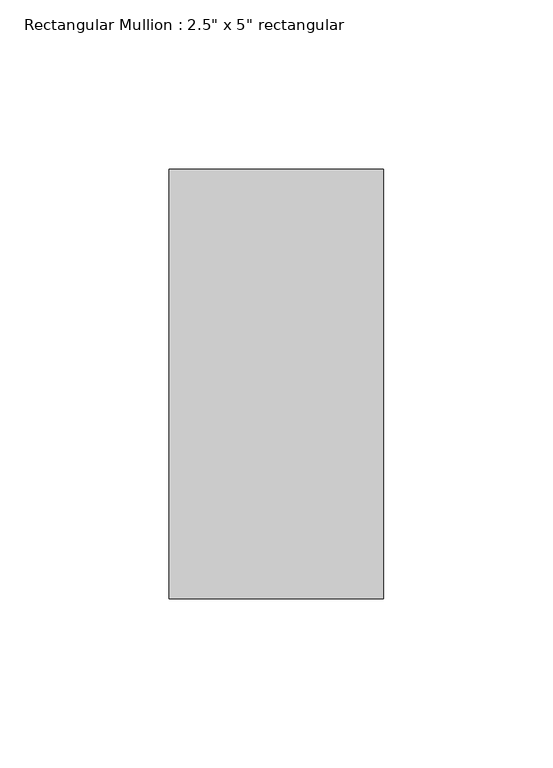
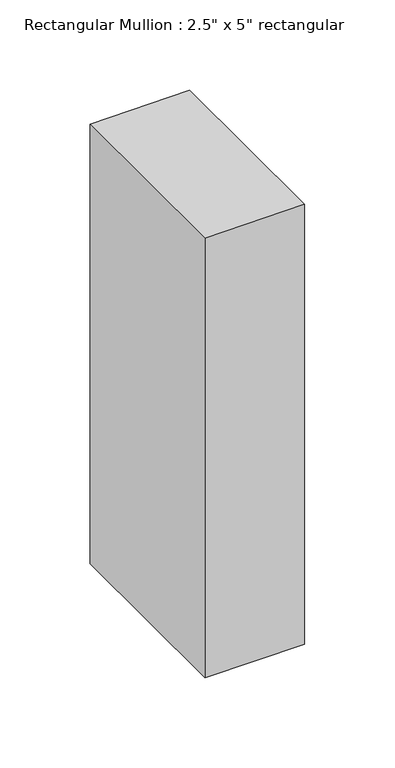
"""IFC4 building model written with IfcOpenShell, lengths in millimetres: member geometry."""

from ifc_helpers import new_model, si_unit, frame, origin, place, context, project, spatial, polyline, outline, extrude, source, transform, mapped, element, save


def member_e5b014c7(model_context):
    return source(origin(), model_context, "Body", "SweptSolid", [
        extrude(outline(polyline([(0.0, 0.0), (-0.6941664, -63.5), (-297.178244, -63.5), (-297.0205251, 0.0), (0.0, 0.0)])), frame((0.0, -63.5, 0.0), z_axis=(0.0, 1.0, 0.0), x_axis=(0.0, 0.0, 1.0)), (0.0, 0.0, 1.0), 127.0),
    ])


if __name__ == "__main__":
    model = new_model("IFC4")
    model_context = context("Model", 3, world=origin())
    ifc_project = project(units=[si_unit("LENGTHUNIT", "METRE", prefix="MILLI")], contexts=[model_context])
    site = spatial("IfcSite", under=ifc_project)
    building = spatial("IfcBuilding", under=site)
    placement = place(None, origin())
    member_shape = member_e5b014c7(model_context)
    element("IfcMember", 1, ObjectType="Rectangular Mullion : 2.5\" x 5\" rectangular", at=placement, inside=building, context=model_context, shape_type="MappedRepresentation", body=[
        mapped(member_shape, transform((0.0, 0.0, 0.0), x_axis=(1.0, 0.0, 0.0), y_axis=(0.0, 1.0, 0.0), z_axis=(0.0, 0.0, 1.0))),
    ])
    save(model, "model.ifc")
